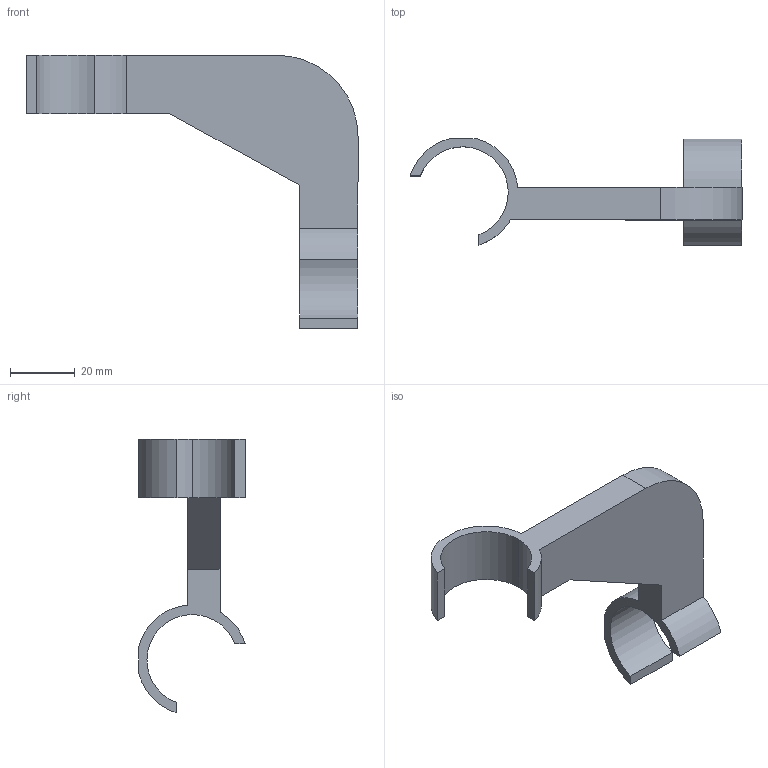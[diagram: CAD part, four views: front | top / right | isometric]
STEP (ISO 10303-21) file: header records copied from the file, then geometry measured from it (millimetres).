
FILE_DESCRIPTION (( 'STEP AP214' ), '1' );
FILE_NAME ('PJ-700B.STEP', '2023-09-12T11:22:55', ( 'catia' ), ( 'HP Inc.' ), 'SwSTEP 2.0', 'SolidWorks 2021', '' );
FILE_SCHEMA (( 'AUTOMOTIVE_DESIGN' ));
Length unit declared in the file: millimetre
Products named in the file (1): PJ-700B
Bounding box: 102.25 x 32.75 x 84.25 mm (x, y, z)
Volume: 28335.8 mm3; surface area: 11282.3 mm2
Topology: 1 solids, 1 shells, 23 faces, 63 edges, 42 vertices
Faces by surface type: plane 13, cylinder 10
Entity records: 771 total; most frequent: DIRECTION 131, CARTESIAN_POINT 129, ORIENTED_EDGE 126, EDGE_CURVE 63, AXIS2_PLACEMENT_3D 44, VECTOR 43, LINE 43, VERTEX_POINT 42
